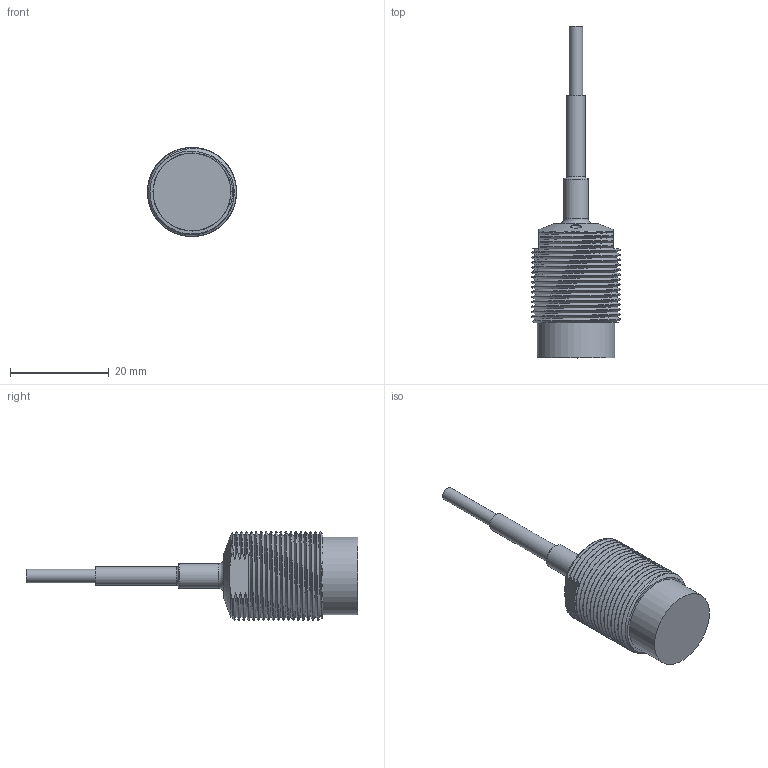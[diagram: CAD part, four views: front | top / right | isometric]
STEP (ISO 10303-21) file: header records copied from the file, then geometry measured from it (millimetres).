
FILE_DESCRIPTION( ( 'STEP AP214' ), '1' );
FILE_NAME( 'N:/Engineering/CAD_Solid/Wirbelstrom/Wirbelstromsensoren/T5/T5-G-KA.stp', '2013-05-02T13:55:57', ( ' ' ), ( ' ' ), 'XStep 1.0', ' ', ' ' );
FILE_SCHEMA( ( 'CONFIG_CONTROL_DESIGN) ( )' ) );
Length unit declared in the file: metre
Products named in the file (3): 1; 2; 3
Bounding box: 18 x 67.1 x 18 mm (x, y, z)
Surface area: 3610.4 mm2 (no closed solid volume)
Topology: 0 solids, 52 shells, 52 faces, 247 edges, 231 vertices
Faces by surface type: bspline 17, cylinder 14, plane 11, cone 7, torus 3
Full cylindrical faces by diameter (mm): 2 x2, 2.7 x1, 3.7 x1, 5 x1, 15.7 x1, 15.8 x1
Entity records: 43511 total; most frequent: CARTESIAN_POINT 42064, ORIENTED_EDGE 220, EDGE_CURVE 220, VERTEX_POINT 220, DIRECTION 188, B_SPLINE_CURVE_WITH_KNOTS 106, AXIS2_PLACEMENT_3D 80, FACE_BOUND 72
